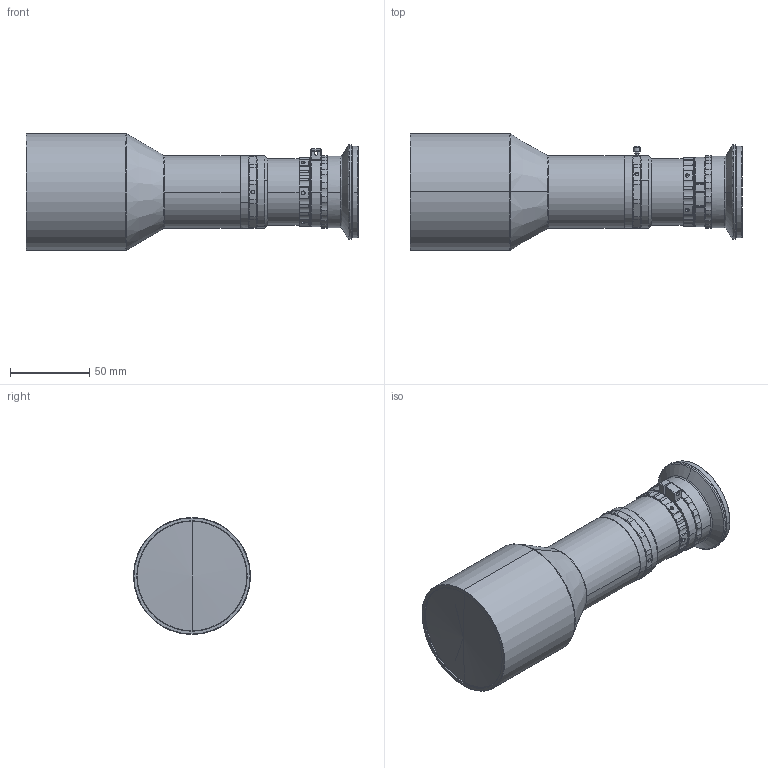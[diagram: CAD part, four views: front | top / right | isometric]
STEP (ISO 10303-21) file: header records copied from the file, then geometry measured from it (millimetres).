
FILE_DESCRIPTION (( 'STEP AP203' ), '1' );
FILE_NAME ('DTCA185-46.8-G-M58-AL.STEP', '2023-05-15T09:59:20', ( '' ), ( '' ), 'SwSTEP 2.0', 'SolidWorks 2017', '' );
FILE_SCHEMA (( 'CONFIG_CONTROL_DESIGN' ));
Length unit declared in the file: millimetre
Products named in the file (1): DTCA185-46.8-G-M58-AL
Bounding box: 209.93 x 74 x 74 mm (x, y, z)
Volume: 528620.3 mm3; surface area: 50840.5 mm2
Topology: 1 solids, 2 shells, 673 faces, 1774 edges, 1137 vertices
Faces by surface type: cylinder 254, plane 189, cone 173, bspline 57
Entity records: 24310 total; most frequent: CARTESIAN_POINT 7818, ORIENTED_EDGE 3544, DIRECTION 3392, EDGE_CURVE 1772, AXIS2_PLACEMENT_3D 1396, VERTEX_POINT 1137, CIRCLE 779, EDGE_LOOP 741
